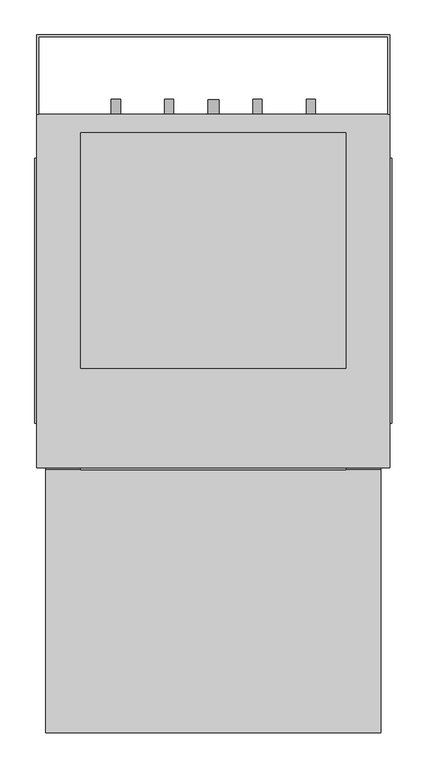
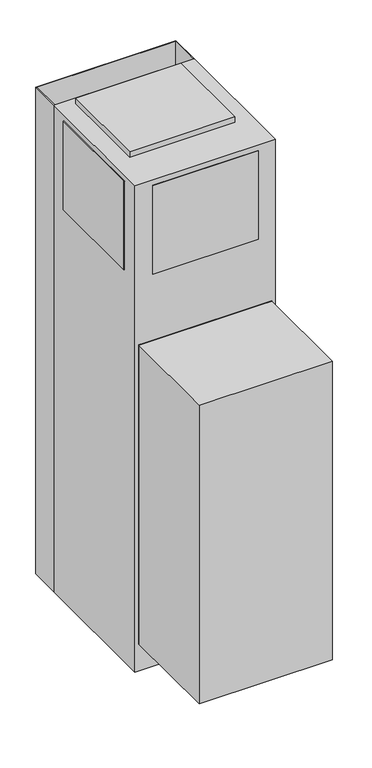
"""IFC4 building model written with IfcOpenShell, lengths in millimetres: proxy geometry, Exposed_Modular_Fan_Coil_Unit_-_42SHA_-_CARRIER_-_4-Pipe_-_NoRisers_2022 : Size 10 - 277v/60Hz/1Ph - 4/1 Coil."""

from ifc_helpers import new_model, si_unit, point, frame, frame_2d, origin, origin_with_axes, place, context, project, spatial, polyline, circle_curve, trimmed, segment, composite_curve, outline, extrude, source, transform, mapped, element, save


def mechanical_equipment_c5b8748d(model_context):
    return source(origin(), model_context, "Body", "SweptSolid", [
        extrude(outline(polyline([(746.125, -368.3), (746.125, -822.325), (168.275, -822.325), (168.275, -368.3), (746.125, -368.3)])), frame((0.0, 0.0, 127.0), z_axis=(0.0, 0.0, 1.0), x_axis=(1.0, 0.0, 0.0)), (0.0, 0.0, 1.0), 1371.6),
        extrude(outline(polyline([(152.4, 381.0), (762.0, 381.0), (762.0, 244.475), (758.825, 244.475), (758.825, 377.825), (155.575, 377.825), (155.575, 244.475), (152.4, 244.475), (152.4, 381.0)])), origin_with_axes(), (0.0, 0.0, 1.0), 2235.2),
        extrude(outline(composite_curve([segment(trimmed(circle_curve(frame_2d((990.6, 533.4)), 7.9375), [point((990.6, 541.3375))], [point((990.6, 525.4625))], False, "CARTESIAN"), True, "CONTINUOUS"), segment(trimmed(circle_curve(frame_2d((990.6, 533.4)), 7.9375), [point((990.6, 525.4625))], [point((990.6, 541.3375))], False, "CARTESIAN"), True, "CONTINUOUS")], self_intersect=False)), frame((0.0, 244.475, 0.0), z_axis=(0.0, 1.0, 0.0), x_axis=(0.0, 0.0, 1.0)), (0.0, 0.0, 1.0), 25.4),
        extrude(outline(composite_curve([segment(trimmed(circle_curve(frame_2d((990.6, 381.0)), 7.9375), [point((990.6, 388.9375))], [point((990.6, 373.0625))], False, "CARTESIAN"), True, "CONTINUOUS"), segment(trimmed(circle_curve(frame_2d((990.6, 381.0)), 7.9375), [point((990.6, 373.0625))], [point((990.6, 388.9375))], False, "CARTESIAN"), True, "CONTINUOUS")], self_intersect=False)), frame((0.0, 244.475, 0.0), z_axis=(0.0, 1.0, 0.0), x_axis=(0.0, 0.0, 1.0)), (0.0, 0.0, 1.0), 25.4),
        extrude(outline(composite_curve([segment(trimmed(circle_curve(frame_2d((76.2, 457.2)), 9.525), [point((76.2, 466.725))], [point((76.2, 447.675))], False, "CARTESIAN"), True, "CONTINUOUS"), segment(trimmed(circle_curve(frame_2d((76.2, 457.2)), 9.525), [point((76.2, 447.675))], [point((76.2, 466.725))], False, "CARTESIAN"), True, "CONTINUOUS")], self_intersect=False)), frame((0.0, 244.475, 0.0), z_axis=(0.0, 1.0, 0.0), x_axis=(0.0, 0.0, 1.0)), (0.0, 0.0, 1.0), 25.4),
        extrude(outline(composite_curve([segment(trimmed(circle_curve(frame_2d((990.6, 625.475)), 7.9375), [point((990.6, 633.4125))], [point((990.6, 617.5375))], False, "CARTESIAN"), True, "CONTINUOUS"), segment(trimmed(circle_curve(frame_2d((990.6, 625.475)), 7.9375), [point((990.6, 617.5375))], [point((990.6, 633.4125))], False, "CARTESIAN"), True, "CONTINUOUS")], self_intersect=False)), frame((0.0, 244.475, 0.0), z_axis=(0.0, 1.0, 0.0), x_axis=(0.0, 0.0, 1.0)), (0.0, 0.0, 1.0), 25.4),
        extrude(outline(composite_curve([segment(trimmed(circle_curve(frame_2d((990.6, 288.925)), 7.9375), [point((990.6, 296.8625))], [point((990.6, 280.9875))], False, "CARTESIAN"), True, "CONTINUOUS"), segment(trimmed(circle_curve(frame_2d((990.6, 288.925)), 7.9375), [point((990.6, 280.9875))], [point((990.6, 296.8625))], False, "CARTESIAN"), True, "CONTINUOUS")], self_intersect=False)), frame((0.0, 244.475, 0.0), z_axis=(0.0, 1.0, 0.0), x_axis=(0.0, 0.0, 1.0)), (0.0, 0.0, 1.0), 25.4),
        extrude(outline(polyline([(746.125, -368.3), (168.275, -368.3), (168.275, -365.125), (746.125, -365.125), (746.125, -368.3)])), frame((0.0, 0.0, 127.0), z_axis=(0.0, 0.0, 1.0), x_axis=(1.0, 0.0, 0.0)), (0.0, 0.0, 1.0), 1371.6),
        extrude(outline(polyline([(765.175, 168.275), (765.175, -288.925), (762.0, -288.925), (762.0, 168.275), (765.175, 168.275)])), frame((0.0, 0.0, 1803.4), z_axis=(0.0, 0.0, 1.0), x_axis=(1.0, 0.0, 0.0)), (0.0, 0.0, 1.0), 406.4),
        extrude(outline(polyline([(149.225, -288.925), (149.225, 168.275), (152.4, 168.275), (152.4, -288.925), (149.225, -288.925)])), frame((0.0, 0.0, 1803.4), z_axis=(0.0, 0.0, 1.0), x_axis=(1.0, 0.0, 0.0)), (0.0, 0.0, 1.0), 406.4),
        extrude(outline(polyline([(685.8, -368.3), (228.6, -368.3), (228.6, -365.125), (685.8, -365.125), (685.8, -368.3)])), frame((0.0, 0.0, 1803.4), z_axis=(0.0, 0.0, 1.0), x_axis=(1.0, 0.0, 0.0)), (0.0, 0.0, 1.0), 406.4),
        extrude(outline(polyline([(685.8, 212.725), (685.8, -193.675), (228.6, -193.675), (228.6, 212.725), (685.8, 212.725)])), frame((0.0, 0.0, 2235.2), z_axis=(0.0, 0.0, 1.0), x_axis=(1.0, 0.0, 0.0)), (0.0, 0.0, 1.0), 25.4),
        extrude(outline(polyline([(762.0, 244.475), (762.0, -365.125), (152.4, -365.125), (152.4, 244.475), (762.0, 244.475)])), origin_with_axes(), (0.0, 0.0, 1.0), 2235.2),
    ])


if __name__ == "__main__":
    model = new_model("IFC4")
    model_context = context("Model", 3, world=origin())
    ifc_project = project(units=[si_unit("LENGTHUNIT", "METRE", prefix="MILLI")], contexts=[model_context])
    site = spatial("IfcSite", under=ifc_project)
    building = spatial("IfcBuilding", under=site)
    placement = place(None, origin())
    mechanical_equipment_shape = mechanical_equipment_c5b8748d(model_context)
    element("IfcBuildingElementProxy", 1, Name="Exposed_Modular_Fan_Coil_Unit_-_42SHA_-_CARRIER_-_4-Pipe_-_NoRisers_2022 : Size 10 - 277v/60Hz/1Ph - 4/1 Coil", ObjectType="Exposed_Modular_Fan_Coil_Unit_-_42SHA_-_CARRIER_-_4-Pipe_-_NoRisers_2022 : Size 10 - 277v/60Hz/1Ph - 4/1 Coil", at=placement, inside=building, context=model_context, shape_type="MappedRepresentation", body=[
        mapped(mechanical_equipment_shape, transform((0.0, 0.0, 0.0), x_axis=(1.0, 0.0, 0.0), y_axis=(0.0, 1.0, 0.0), z_axis=(0.0, 0.0, 1.0))),
    ])
    save(model, "model.ifc")
